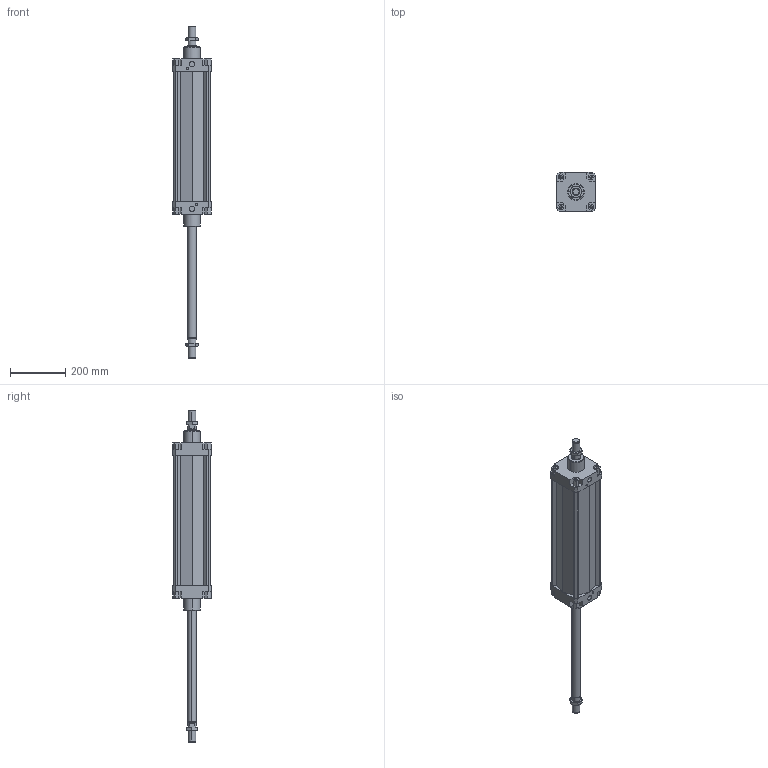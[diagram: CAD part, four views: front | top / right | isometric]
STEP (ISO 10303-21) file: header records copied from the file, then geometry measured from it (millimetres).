
FILE_DESCRIPTION((''),'2;1');
FILE_NAME('I:\DOC-EDP\Lib-3d\1319\CILINDRI\Ø125\1319_125_0400_02.stp','2003-04-08T12:21:33',('maffial1'),(''),'Autodesk Inventor (R) 6.0','Autodesk Inventor (R) 6.0','');
FILE_SCHEMA(('AUTOMOTIVE_DESIGN { 1 0 10303 214 1 1 1 1 }'));
Length unit declared in the file: millimetre
Products named in the file (4): 1319_125_0400_02; CIM04_125_400; CIM03_125_400; 1320_125_18F
Assembly tree (4 placements, depth 2):
  1319_125_0400_02
    CIM04_125_400
    CIM03_125_400
    1320_125_18F  x2
Bounding box: 140 x 140 x 1198 mm (x, y, z)
Volume: 9775806.1 mm3; surface area: 589310 mm2
Topology: 4 solids, 4 shells, 290 faces, 724 edges, 452 vertices
Faces by surface type: plane 130, bspline 72, cone 60, cylinder 28
Entity records: 8094 total; most frequent: CARTESIAN_POINT 1972, ORIENTED_EDGE 1288, DIRECTION 1160, EDGE_CURVE 644, VECTOR 480, LINE 480, VERTEX_POINT 416, AXIS2_PLACEMENT_3D 340
